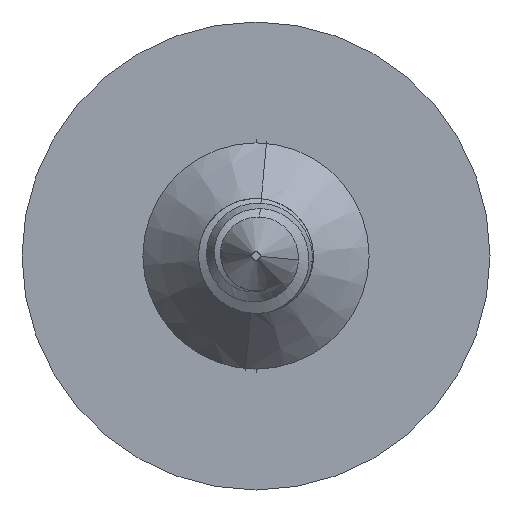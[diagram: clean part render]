
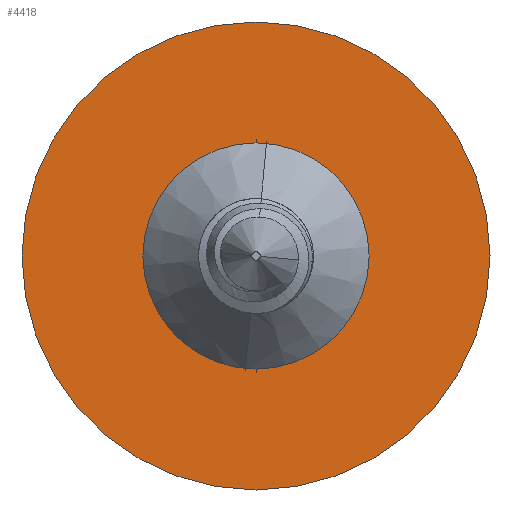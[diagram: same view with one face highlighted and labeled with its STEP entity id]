
A CAD part, front view. The second image highlights one B-rep face of the part: STEP entity #4418.
In plain terms, the highlighted planar face has unit normal (0, -1, 0).
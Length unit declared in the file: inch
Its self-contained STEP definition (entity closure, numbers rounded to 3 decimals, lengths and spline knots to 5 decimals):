
#115 = CARTESIAN_POINT ( 'NONE',  ( 0., -0.035, 0. ) ) ;
#116 = CIRCLE ( 'NONE', #497, 0.28125 ) ;
#128 = DIRECTION ( 'NONE',  ( 0., 1., 0. ) ) ;
#234 = DIRECTION ( 'NONE',  ( 0., 1., 0. ) ) ;
#243 = EDGE_CURVE ( 'NONE', #4623, #4283, #717, .T. ) ;
#333 = AXIS2_PLACEMENT_3D ( 'NONE', #3534, #1303, #972 ) ;
#414 = CIRCLE ( 'NONE', #333, 0.28125 ) ;
#497 = AXIS2_PLACEMENT_3D ( 'NONE', #115, #234, #2473 ) ;
#581 = EDGE_CURVE ( 'NONE', #3839, #1030, #414, .T. ) ;
#597 = DIRECTION ( 'NONE',  ( 0., 1., 0. ) ) ;
#717 = CIRCLE ( 'NONE', #1077, 0.13597 ) ;
#740 = PLANE ( 'NONE',  #2438 ) ;
#972 = DIRECTION ( 'NONE',  ( 0., 0., 1. ) ) ;
#987 = ORIENTED_EDGE ( 'NONE', *, *, #2564, .F. ) ;
#1030 = VERTEX_POINT ( 'NONE', #3394 ) ;
#1077 = AXIS2_PLACEMENT_3D ( 'NONE', #2066, #597, #1367 ) ;
#1118 = ORIENTED_EDGE ( 'NONE', *, *, #243, .T. ) ;
#1285 = DIRECTION ( 'NONE',  ( 0., 0., 1. ) ) ;
#1303 = DIRECTION ( 'NONE',  ( 0., 1., 0. ) ) ;
#1367 = DIRECTION ( 'NONE',  ( 0., 0., 1. ) ) ;
#1615 = EDGE_LOOP ( 'NONE', ( #4228, #987 ) ) ;
#1650 = CARTESIAN_POINT ( 'NONE',  ( 0., -0.035, -0.13597 ) ) ;
#1862 = EDGE_LOOP ( 'NONE', ( #4436, #1118 ) ) ;
#2066 = CARTESIAN_POINT ( 'NONE',  ( 0., -0.035, 0. ) ) ;
#2438 = AXIS2_PLACEMENT_3D ( 'NONE', #4179, #3840, #4594 ) ;
#2473 = DIRECTION ( 'NONE',  ( 0., 0., 1. ) ) ;
#2564 = EDGE_CURVE ( 'NONE', #1030, #3839, #116, .T. ) ;
#3027 = AXIS2_PLACEMENT_3D ( 'NONE', #3482, #128, #1285 ) ;
#3394 = CARTESIAN_POINT ( 'NONE',  ( 0., -0.035, 0.28125 ) ) ;
#3482 = CARTESIAN_POINT ( 'NONE',  ( 0., -0.035, 0. ) ) ;
#3499 = CIRCLE ( 'NONE', #3027, 0.13597 ) ;
#3534 = CARTESIAN_POINT ( 'NONE',  ( 0., -0.035, 0. ) ) ;
#3817 = CARTESIAN_POINT ( 'NONE',  ( 0., -0.035, -0.28125 ) ) ;
#3839 = VERTEX_POINT ( 'NONE', #3817 ) ;
#3840 = DIRECTION ( 'NONE',  ( 0., 1., 0. ) ) ;
#3897 = EDGE_CURVE ( 'NONE', #4283, #4623, #3499, .T. ) ;
#4080 = FACE_BOUND ( 'NONE', #1862, .T. ) ;
#4144 = FACE_OUTER_BOUND ( 'NONE', #1615, .T. ) ;
#4179 = CARTESIAN_POINT ( 'NONE',  ( 0., -0.035, 0. ) ) ;
#4205 = CARTESIAN_POINT ( 'NONE',  ( 0., -0.035, 0.13597 ) ) ;
#4228 = ORIENTED_EDGE ( 'NONE', *, *, #581, .F. ) ;
#4283 = VERTEX_POINT ( 'NONE', #4205 ) ;
#4418 = ADVANCED_FACE ( 'NONE', ( #4080, #4144 ), #740, .F. ) ;
#4436 = ORIENTED_EDGE ( 'NONE', *, *, #3897, .T. ) ;
#4594 = DIRECTION ( 'NONE',  ( 0., 0., 1. ) ) ;
#4623 = VERTEX_POINT ( 'NONE', #1650 ) ;
